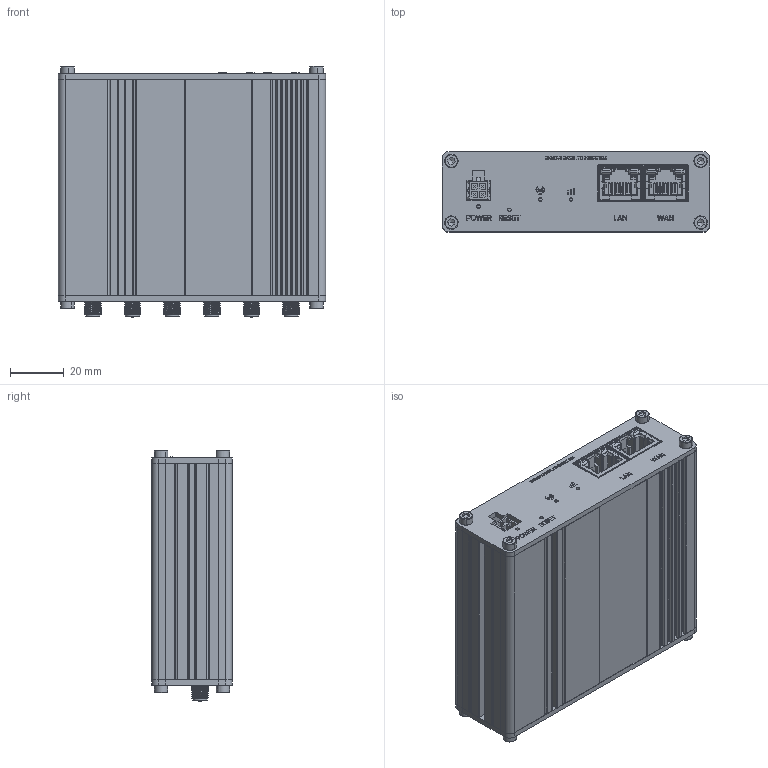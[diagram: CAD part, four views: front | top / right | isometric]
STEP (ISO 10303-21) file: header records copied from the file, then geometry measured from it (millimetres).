
FILE_DESCRIPTION (( 'STEP AP214' ), '1' );
FILE_NAME ('0112_RUTM30AMBKX_02.STEP', '2025-02-18T10:50:49', ( '' ), ( '' ), 'SwSTEP 2.0', 'SolidWorks 2024', '' );
FILE_SCHEMA (( 'AUTOMOTIVE_DESIGN' ));
Length unit declared in the file: millimetre
Products named in the file (16): RUTM30_v2.0_20250110_1055_Simplified; 0252_RUTM20CX00X_01; 0251_RUTM20CX00X_01; 0341_RUTM20CX00_01; 0275_RUTM20CX00X_01; 0277_RUTM30CX00X_01; 0260_RUTM30CX00X_01; 0343_RUTM30CX00_01; 0135_RUT301HMBKT_01_RUTM30; 0468 005 10; 0259_RUTM30CX00X_01; 0054_RUTM20PRBKT_03_With silkscreen; 0238_RUTM20PFBKT_01_With silkscreen; CH-CC-SC-1806214-1_3.03; 0112_RUTM30AMBKX_02; 0248_RUTM20CX00X_01_padidinta
Assembly tree (23 placements, depth 3):
  0112_RUTM30AMBKX_02
    0135_RUT301HMBKT_01_RUTM30
    0054_RUTM20PRBKT_03_With silkscreen
    0238_RUTM20PFBKT_01_With silkscreen
    CH-CC-SC-1806214-1_3.03  x8
    0341_RUTM20CX00_01
      0275_RUTM20CX00X_01
      0251_RUTM20CX00X_01
      0248_RUTM20CX00X_01_padidinta
      0252_RUTM20CX00X_01
    0343_RUTM30CX00_01
      0277_RUTM30CX00X_01
      0259_RUTM30CX00X_01
      0260_RUTM30CX00X_01
    0468 005 10  x2
    RUTM30_v2.0_20250110_1055_Simplified
Bounding box: 100 x 30 x 93.7 mm (x, y, z)
Volume: 109469.1 mm3; surface area: 111615.7 mm2
Topology: 37 solids, 41 shells, 4313 faces, 11764 edges, 7678 vertices
Faces by surface type: plane 2573, cylinder 1211, bspline 369, torus 76, cone 74, sphere 10
Entity records: 203868 total; most frequent: CARTESIAN_POINT 64168, ORIENTED_EDGE 22240, DIRECTION 18184, EDGE_CURVE 11120, VERTEX_POINT 7352, VECTOR 7320, LINE 7320, AXIS2_PLACEMENT_3D 5432
